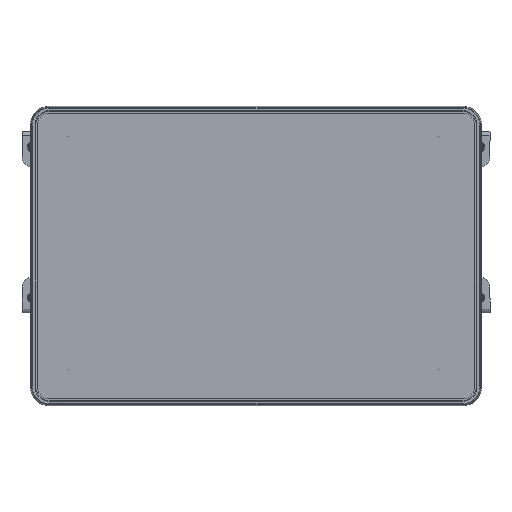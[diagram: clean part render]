
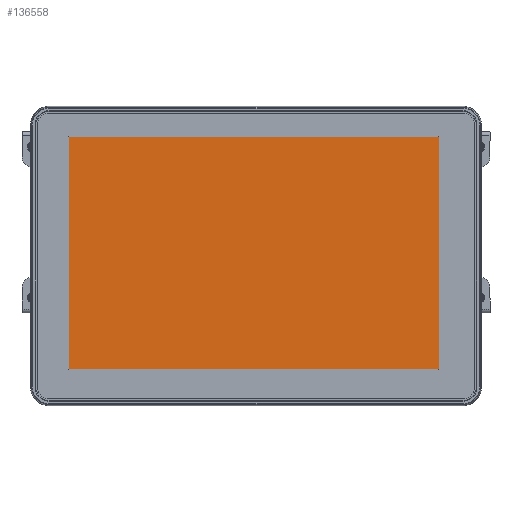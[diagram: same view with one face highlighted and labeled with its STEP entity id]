
A CAD part, top view. The second image highlights one B-rep face of the part: STEP entity #136558.
In plain terms, the highlighted planar face has unit normal (0, 0, 1).
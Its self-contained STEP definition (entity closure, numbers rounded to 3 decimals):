
#2616=PLANE('',#144807);
#8594=FACE_OUTER_BOUND('',#16804,.T.);
#16804=EDGE_LOOP('',(#93179,#93180,#93181,#93182));
#33195=LINE('',#197210,#45533);
#33199=LINE('',#197217,#45537);
#33202=LINE('',#197223,#45540);
#33204=LINE('',#197226,#45542);
#45533=VECTOR('',#156707,10.);
#45537=VECTOR('',#156713,10.);
#45540=VECTOR('',#156718,10.);
#45542=VECTOR('',#156722,10.);
#58934=VERTEX_POINT('',#197207);
#58935=VERTEX_POINT('',#197209);
#58937=VERTEX_POINT('',#197215);
#58939=VERTEX_POINT('',#197221);
#72223=EDGE_CURVE('',#58934,#58935,#33195,.T.);
#72227=EDGE_CURVE('',#58937,#58934,#33199,.T.);
#72230=EDGE_CURVE('',#58939,#58937,#33202,.T.);
#72232=EDGE_CURVE('',#58935,#58939,#33204,.T.);
#93179=ORIENTED_EDGE('',*,*,#72232,.F.);
#93180=ORIENTED_EDGE('',*,*,#72223,.F.);
#93181=ORIENTED_EDGE('',*,*,#72227,.F.);
#93182=ORIENTED_EDGE('',*,*,#72230,.F.);
#136558=ADVANCED_FACE('',(#8594),#2616,.F.);
#144807=AXIS2_PLACEMENT_3D('',#197227,#156723,#156724);
#156707=DIRECTION('',(0.,1.,0.));
#156713=DIRECTION('',(-1.,0.,0.));
#156718=DIRECTION('',(0.,-1.,0.));
#156722=DIRECTION('',(1.,0.,0.));
#156723=DIRECTION('center_axis',(0.,0.,
-1.));
#156724=DIRECTION('ref_axis',(-1.,0.,0.));
#197207=CARTESIAN_POINT('',(-110.29,-66.68,1.829));
#197209=CARTESIAN_POINT('',(-110.29,70.32,1.829));
#197210=CARTESIAN_POINT('',(-110.29,-66.68,1.829));
#197215=CARTESIAN_POINT('',(107.71,-66.68,1.829));
#197217=CARTESIAN_POINT('',(107.71,-66.68,1.829));
#197221=CARTESIAN_POINT('',(107.71,70.32,1.829));
#197223=CARTESIAN_POINT('',(107.71,70.32,1.829));
#197226=CARTESIAN_POINT('',(-110.29,70.32,1.829));
#197227=CARTESIAN_POINT('Origin',(-1.29,1.82,1.829));
